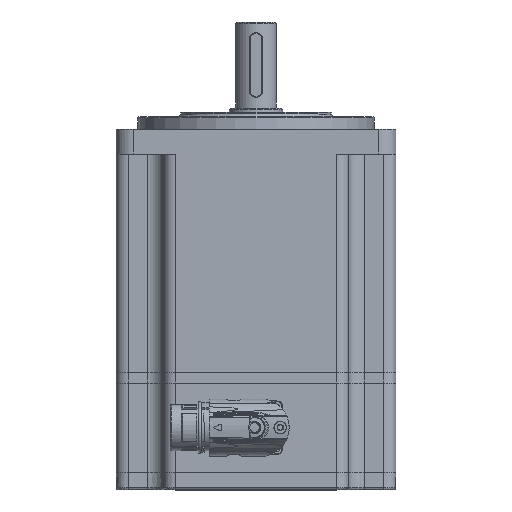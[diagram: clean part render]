
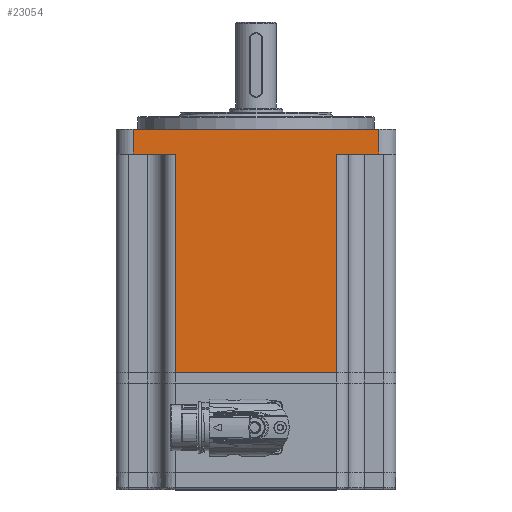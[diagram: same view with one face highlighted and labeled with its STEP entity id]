
A CAD part, top view. The second image highlights one B-rep face of the part: STEP entity #23054.
In plain terms, the highlighted planar face has unit normal (0, 0, 1).
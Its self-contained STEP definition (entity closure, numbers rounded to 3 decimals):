
#1064=LINE('',#43182,#2696);
#1114=LINE('',#44163,#2746);
#1119=LINE('',#44190,#2751);
#1138=LINE('',#44266,#2770);
#1139=LINE('',#44267,#2771);
#1140=LINE('',#44269,#2772);
#1141=LINE('',#44271,#2773);
#1142=LINE('',#44272,#2774);
#2696=VECTOR('',#36897,1000.);
#2746=VECTOR('',#37371,1000.);
#2751=VECTOR('',#37394,1000.);
#2770=VECTOR('',#37473,1000.);
#2771=VECTOR('',#37474,1000.);
#2772=VECTOR('',#37475,1000.);
#2773=VECTOR('',#37476,1000.);
#2774=VECTOR('',#37477,1000.);
#4588=PLANE('',#34352);
#6586=ORIENTED_EDGE('',*,*,#12502,.F.);
#6587=ORIENTED_EDGE('',*,*,#12802,.T.);
#6588=ORIENTED_EDGE('',*,*,#12766,.F.);
#6589=ORIENTED_EDGE('',*,*,#12803,.T.);
#6590=ORIENTED_EDGE('',*,*,#12804,.F.);
#6591=ORIENTED_EDGE('',*,*,#12805,.T.);
#6592=ORIENTED_EDGE('',*,*,#12754,.F.);
#6593=ORIENTED_EDGE('',*,*,#12806,.T.);
#12502=EDGE_CURVE('',#15797,#15798,#1064,.T.);
#12754=EDGE_CURVE('',#15959,#15960,#1114,.T.);
#12766=EDGE_CURVE('',#15971,#15972,#1119,.T.);
#12802=EDGE_CURVE('',#15797,#15972,#1138,.T.);
#12803=EDGE_CURVE('',#15971,#15999,#1139,.T.);
#12804=EDGE_CURVE('',#16000,#15999,#1140,.T.);
#12805=EDGE_CURVE('',#16000,#15960,#1141,.F.);
#12806=EDGE_CURVE('',#15959,#15798,#1142,.T.);
#15797=VERTEX_POINT('',#43181);
#15798=VERTEX_POINT('',#43183);
#15959=VERTEX_POINT('',#44164);
#15960=VERTEX_POINT('',#44165);
#15971=VERTEX_POINT('',#44189);
#15972=VERTEX_POINT('',#44191);
#15999=VERTEX_POINT('',#44268);
#16000=VERTEX_POINT('',#44270);
#19293=EDGE_LOOP('',(#6586,#6587,#6588,#6589,#6590,#6591,#6592,#6593));
#21198=FACE_BOUND('',#19293,.T.);
#23054=ADVANCED_FACE('',(#21198),#4588,.T.);
#34352=AXIS2_PLACEMENT_3D('',#44265,#37471,#37472);
#36897=DIRECTION('',(1.,0.,0.));
#37371=DIRECTION('',(1.,0.,0.));
#37394=DIRECTION('',(1.,0.,0.));
#37471=DIRECTION('',(0.,0.,1.));
#37472=DIRECTION('',(0.,-1.,0.));
#37473=DIRECTION('',(0.,-1.,0.));
#37474=DIRECTION('',(0.,-1.,0.));
#37475=DIRECTION('',(-1.,0.,0.));
#37476=DIRECTION('',(0.,-1.,0.));
#37477=DIRECTION('',(0.,1.,0.));
#43181=CARTESIAN_POINT('',(-37.5,114.2,65.));
#43182=CARTESIAN_POINT('',(65.,114.2,65.));
#43183=CARTESIAN_POINT('',(37.5,114.2,65.));
#44163=CARTESIAN_POINT('',(65.,12.7,65.));
#44164=CARTESIAN_POINT('',(37.5,12.7,65.));
#44165=CARTESIAN_POINT('',(57.,12.7,65.));
#44189=CARTESIAN_POINT('',(-57.,12.7,65.));
#44190=CARTESIAN_POINT('',(65.,12.7,65.));
#44191=CARTESIAN_POINT('',(-37.5,12.7,65.));
#44265=CARTESIAN_POINT('',(65.,309.164,65.));
#44266=CARTESIAN_POINT('',(-37.5,309.164,65.));
#44267=CARTESIAN_POINT('',(-57.,309.164,65.));
#44268=CARTESIAN_POINT('',(-57.,1.2,65.));
#44269=CARTESIAN_POINT('',(65.,1.2,65.));
#44270=CARTESIAN_POINT('',(57.,1.2,65.));
#44271=CARTESIAN_POINT('',(57.,309.164,65.));
#44272=CARTESIAN_POINT('',(37.5,309.164,65.));
